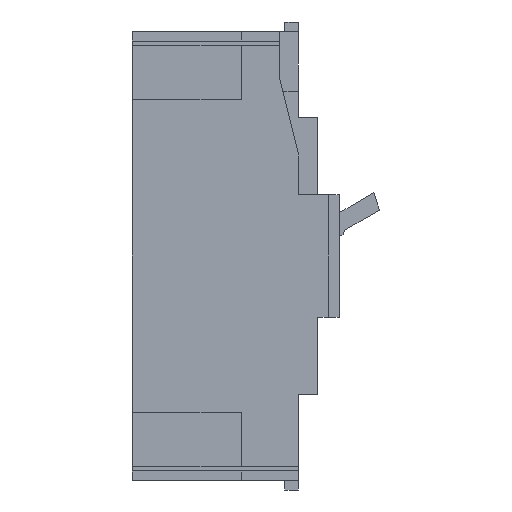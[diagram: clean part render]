
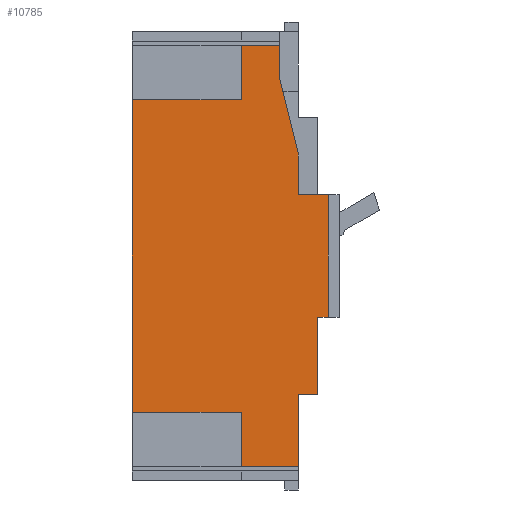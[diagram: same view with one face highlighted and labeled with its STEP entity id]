
A CAD part, left-side view. The second image highlights one B-rep face of the part: STEP entity #10785.
In plain terms, the highlighted planar face has unit normal (-1, 0, 0).
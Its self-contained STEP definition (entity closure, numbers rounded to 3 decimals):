
#2=DIRECTION('',(0.,-1.,0.));
#3=VECTOR('',#2,40.);
#4=CARTESIAN_POINT('',(-70.,30.5,-57.5));
#5=LINE('',#4,#3);
#6=DIRECTION('',(0.,0.,1.));
#7=VECTOR('',#6,115.);
#8=CARTESIAN_POINT('',(-70.,30.5,-57.5));
#9=LINE('',#8,#7);
#10=DIRECTION('',(0.,-1.,0.));
#11=VECTOR('',#10,40.);
#12=CARTESIAN_POINT('',(-70.,30.5,57.5));
#13=LINE('',#12,#11);
#14=DIRECTION('',(0.,0.,-1.));
#15=VECTOR('',#14,20.);
#16=CARTESIAN_POINT('',(-70.,-9.5,77.5));
#17=LINE('',#16,#15);
#18=DIRECTION('',(0.,-1.,0.));
#19=VECTOR('',#18,14.);
#20=CARTESIAN_POINT('',(-70.,-9.5,77.5));
#21=LINE('',#20,#19);
#22=DIRECTION('',(0.,0.,-1.));
#23=VECTOR('',#22,12.);
#24=CARTESIAN_POINT('',(-70.,-23.5,77.5));
#25=LINE('',#24,#23);
#26=DIRECTION('',(0.,0.243,0.97));
#27=VECTOR('',#26,28.862);
#28=CARTESIAN_POINT('',(-70.,-30.5,37.5));
#29=LINE('',#28,#27);
#30=DIRECTION('',(0.,0.,1.));
#31=VECTOR('',#30,15.);
#32=CARTESIAN_POINT('',(-70.,-30.5,22.5));
#33=LINE('',#32,#31);
#34=DIRECTION('',(0.,0.,-1.));
#35=VECTOR('',#34,45.);
#36=CARTESIAN_POINT('',(-70.,-41.5,22.5));
#37=LINE('',#36,#35);
#38=DIRECTION('',(0.,1.,0.));
#39=VECTOR('',#38,4.);
#40=CARTESIAN_POINT('',(-70.,-41.5,-22.5));
#41=LINE('',#40,#39);
#42=DIRECTION('',(0.,0.,-1.));
#43=VECTOR('',#42,28.5);
#44=CARTESIAN_POINT('',(-70.,-37.5,-22.5));
#45=LINE('',#44,#43);
#46=DIRECTION('',(0.,1.,0.));
#47=VECTOR('',#46,7.);
#48=CARTESIAN_POINT('',(-70.,-37.5,-51.));
#49=LINE('',#48,#47);
#50=DIRECTION('',(0.,0.,-1.));
#51=VECTOR('',#50,26.5);
#52=CARTESIAN_POINT('',(-70.,-30.5,-51.));
#53=LINE('',#52,#51);
#54=DIRECTION('',(0.,-1.,0.));
#55=VECTOR('',#54,21.);
#56=CARTESIAN_POINT('',(-70.,-9.5,-77.5));
#57=LINE('',#56,#55);
#58=DIRECTION('',(0.,0.,1.));
#59=VECTOR('',#58,20.);
#60=CARTESIAN_POINT('',(-70.,-9.5,-77.5));
#61=LINE('',#60,#59);
#4304=DIRECTION('',(0.,1.,0.));
#4305=VECTOR('',#4304,11.);
#4306=CARTESIAN_POINT('',(-70.,-41.5,22.5));
#4307=LINE('',#4306,#4305);
#8104=CARTESIAN_POINT('',(-70.,-37.5,-22.5));
#8105=CARTESIAN_POINT('',(-70.,-37.5,-51.));
#8106=VERTEX_POINT('',#8104);
#8107=VERTEX_POINT('',#8105);
#8108=CARTESIAN_POINT('',(-70.,-30.5,-51.));
#8109=VERTEX_POINT('',#8108);
#9234=CARTESIAN_POINT('',(-70.,-30.5,-77.5));
#9235=VERTEX_POINT('',#9234);
#9296=CARTESIAN_POINT('',(-70.,-41.5,22.5));
#9297=CARTESIAN_POINT('',(-70.,-41.5,-22.5));
#9298=VERTEX_POINT('',#9296);
#9299=VERTEX_POINT('',#9297);
#9620=CARTESIAN_POINT('',(-70.,-30.5,22.5));
#9621=VERTEX_POINT('',#9620);
#9622=CARTESIAN_POINT('',(-70.,-30.5,37.5));
#9623=VERTEX_POINT('',#9622);
#9624=CARTESIAN_POINT('',(-70.,-23.5,65.5));
#9626=VERTEX_POINT('',#9624);
#9632=CARTESIAN_POINT('',(-70.,-23.5,77.5));
#9633=VERTEX_POINT('',#9632);
#9832=CARTESIAN_POINT('',(-70.,-9.5,-57.5));
#9833=VERTEX_POINT('',#9832);
#9834=CARTESIAN_POINT('',(-70.,-9.5,57.5));
#9835=VERTEX_POINT('',#9834);
#9836=CARTESIAN_POINT('',(-70.,30.5,-57.5));
#9837=VERTEX_POINT('',#9836);
#9842=CARTESIAN_POINT('',(-70.,-9.5,-77.5));
#9843=VERTEX_POINT('',#9842);
#9848=CARTESIAN_POINT('',(-70.,-9.5,77.5));
#9849=VERTEX_POINT('',#9848);
#9850=CARTESIAN_POINT('',(-70.,30.5,57.5));
#9851=VERTEX_POINT('',#9850);
#10746=CARTESIAN_POINT('',(-70.,0.,0.));
#10747=DIRECTION('',(1.,0.,0.));
#10748=DIRECTION('',(0.,-1.,0.));
#10749=AXIS2_PLACEMENT_3D('',#10746,#10747,#10748);
#10750=PLANE('',#10749);
#10752=ORIENTED_EDGE('',*,*,#10751,.F.);
#10754=ORIENTED_EDGE('',*,*,#10753,.T.);
#10756=ORIENTED_EDGE('',*,*,#10755,.T.);
#10758=ORIENTED_EDGE('',*,*,#10757,.F.);
#10760=ORIENTED_EDGE('',*,*,#10759,.T.);
#10762=ORIENTED_EDGE('',*,*,#10761,.T.);
#10764=ORIENTED_EDGE('',*,*,#10763,.F.);
#10766=ORIENTED_EDGE('',*,*,#10765,.F.);
#10768=ORIENTED_EDGE('',*,*,#10767,.F.);
#10770=ORIENTED_EDGE('',*,*,#10769,.T.);
#10772=ORIENTED_EDGE('',*,*,#10771,.T.);
#10774=ORIENTED_EDGE('',*,*,#10773,.T.);
#10776=ORIENTED_EDGE('',*,*,#10775,.T.);
#10778=ORIENTED_EDGE('',*,*,#10777,.T.);
#10780=ORIENTED_EDGE('',*,*,#10779,.F.);
#10782=ORIENTED_EDGE('',*,*,#10781,.T.);
#10783=EDGE_LOOP('',(#10752,#10754,#10756,#10758,#10760,#10762,#10764,#10766,
#10768,#10770,#10772,#10774,#10776,#10778,#10780,#10782));
#10784=FACE_OUTER_BOUND('',#10783,.F.);
#10751=EDGE_CURVE('',#9837,#9833,#5,.T.);
#10753=EDGE_CURVE('',#9837,#9851,#9,.T.);
#10755=EDGE_CURVE('',#9851,#9835,#13,.T.);
#10757=EDGE_CURVE('',#9849,#9835,#17,.T.);
#10759=EDGE_CURVE('',#9849,#9633,#21,.T.);
#10761=EDGE_CURVE('',#9633,#9626,#25,.T.);
#10763=EDGE_CURVE('',#9623,#9626,#29,.T.);
#10765=EDGE_CURVE('',#9621,#9623,#33,.T.);
#10767=EDGE_CURVE('',#9298,#9621,#4307,.T.);
#10769=EDGE_CURVE('',#9298,#9299,#37,.T.);
#10771=EDGE_CURVE('',#9299,#8106,#41,.T.);
#10773=EDGE_CURVE('',#8106,#8107,#45,.T.);
#10775=EDGE_CURVE('',#8107,#8109,#49,.T.);
#10777=EDGE_CURVE('',#8109,#9235,#53,.T.);
#10779=EDGE_CURVE('',#9843,#9235,#57,.T.);
#10781=EDGE_CURVE('',#9843,#9833,#61,.T.);
#10785=ADVANCED_FACE('',(#10784),#10750,.F.);
